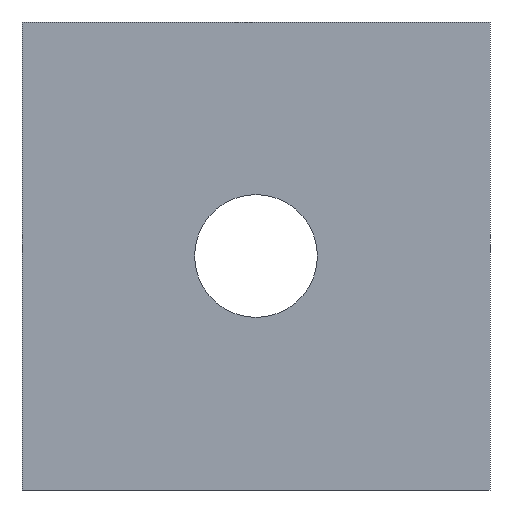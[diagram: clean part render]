
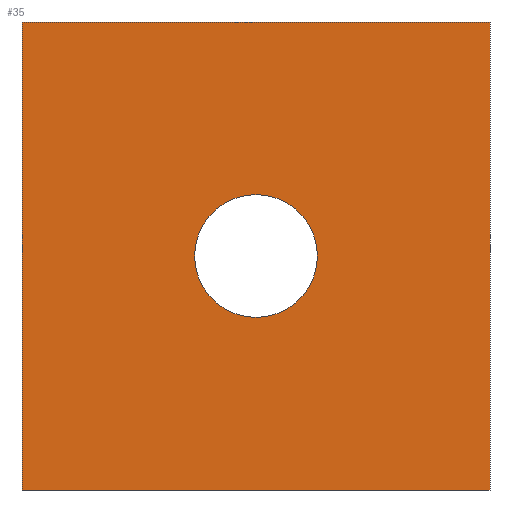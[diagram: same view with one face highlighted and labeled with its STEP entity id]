
A CAD part, front view. The second image highlights one B-rep face of the part: STEP entity #35.
In plain terms, the highlighted planar face has unit normal (0, -1, 0).
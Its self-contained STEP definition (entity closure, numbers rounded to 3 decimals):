
#6 = ORIENTED_EDGE ( 'NONE', *, *, #20, .T. ) ;
#11 = EDGE_CURVE ( 'NONE', #67, #79, #192, .T. ) ;
#15 = ORIENTED_EDGE ( 'NONE', *, *, #69, .F. ) ;
#16 = ORIENTED_EDGE ( 'NONE', *, *, #11, .T. ) ;
#19 = EDGE_LOOP ( 'NONE', ( #23, #15, #16, #37 ) ) ;
#20 = EDGE_CURVE ( 'NONE', #121, #120, #170, .T. ) ;
#21 = EDGE_CURVE ( 'NONE', #45, #113, #370, .T. ) ;
#22 = EDGE_LOOP ( 'NONE', ( #6, #31 ) ) ;
#23 = ORIENTED_EDGE ( 'NONE', *, *, #21, .F. ) ;
#31 = ORIENTED_EDGE ( 'NONE', *, *, #119, .T. ) ;
#35 = ADVANCED_FACE ( 'NONE', ( #358, #353 ), #352, .T. ) ;
#37 = ORIENTED_EDGE ( 'NONE', *, *, #78, .T. ) ;
#45 = VERTEX_POINT ( 'NONE', #306 ) ;
#67 = VERTEX_POINT ( 'NONE', #271 ) ;
#69 = EDGE_CURVE ( 'NONE', #67, #45, #270, .T. ) ;
#78 = EDGE_CURVE ( 'NONE', #79, #113, #255, .T. ) ;
#79 = VERTEX_POINT ( 'NONE', #251 ) ;
#113 = VERTEX_POINT ( 'NONE', #165 ) ;
#119 = EDGE_CURVE ( 'NONE', #120, #121, #155, .T. ) ;
#120 = VERTEX_POINT ( 'NONE', #150 ) ;
#121 = VERTEX_POINT ( 'NONE', #149 ) ;
#149 = CARTESIAN_POINT ( 'NONE',  ( 20., 0., -14.75 ) ) ;
#150 = CARTESIAN_POINT ( 'NONE',  ( 20., 0., -25.25 ) ) ;
#151 = DIRECTION ( 'NONE',  ( 0., 0., 1. ) ) ;
#152 = DIRECTION ( 'NONE',  ( 0., 1., 0. ) ) ;
#153 = CARTESIAN_POINT ( 'NONE',  ( 20., 0., -20. ) ) ;
#154 = AXIS2_PLACEMENT_3D ( 'NONE', #153, #152, #151 ) ;
#155 = CIRCLE ( 'NONE', #154, 5.25 ) ;
#165 = CARTESIAN_POINT ( 'NONE',  ( 40., 0., 0. ) ) ;
#170 = CIRCLE ( 'NONE', #374, 5.25 ) ;
#175 = DIRECTION ( 'NONE',  ( 1., 0., 0. ) ) ;
#176 = VECTOR ( 'NONE', #175, 1000. ) ;
#177 = CARTESIAN_POINT ( 'NONE',  ( 0., 0., -40. ) ) ;
#192 = LINE ( 'NONE', #177, #176 ) ;
#251 = CARTESIAN_POINT ( 'NONE',  ( 40., 0., -40. ) ) ;
#252 = DIRECTION ( 'NONE',  ( 0., 0., 1. ) ) ;
#253 = VECTOR ( 'NONE', #252, 1000. ) ;
#254 = CARTESIAN_POINT ( 'NONE',  ( 40., 0., -40. ) ) ;
#255 = LINE ( 'NONE', #254, #253 ) ;
#267 = DIRECTION ( 'NONE',  ( 0., 0., 1. ) ) ;
#268 = VECTOR ( 'NONE', #267, 1000. ) ;
#269 = CARTESIAN_POINT ( 'NONE',  ( 0., 0., -40. ) ) ;
#270 = LINE ( 'NONE', #269, #268 ) ;
#271 = CARTESIAN_POINT ( 'NONE',  ( 0., 0., -40. ) ) ;
#306 = CARTESIAN_POINT ( 'NONE',  ( 0., 0., 0. ) ) ;
#348 = DIRECTION ( 'NONE',  ( 0., 0., -1. ) ) ;
#349 = DIRECTION ( 'NONE',  ( 0., -1., 0. ) ) ;
#350 = CARTESIAN_POINT ( 'NONE',  ( 0., 0., -40. ) ) ;
#351 = AXIS2_PLACEMENT_3D ( 'NONE', #350, #349, #348 ) ;
#352 = PLANE ( 'NONE',  #351 ) ;
#353 = FACE_OUTER_BOUND ( 'NONE', #19, .T. ) ;
#358 = FACE_BOUND ( 'NONE', #22, .T. ) ;
#367 = DIRECTION ( 'NONE',  ( 1., 0., 0. ) ) ;
#368 = VECTOR ( 'NONE', #367, 1000. ) ;
#369 = CARTESIAN_POINT ( 'NONE',  ( 0., 0., 0. ) ) ;
#370 = LINE ( 'NONE', #369, #368 ) ;
#371 = DIRECTION ( 'NONE',  ( 0., 0., 1. ) ) ;
#372 = DIRECTION ( 'NONE',  ( 0., 1., 0. ) ) ;
#373 = CARTESIAN_POINT ( 'NONE',  ( 20., 0., -20. ) ) ;
#374 = AXIS2_PLACEMENT_3D ( 'NONE', #373, #372, #371 ) ;
